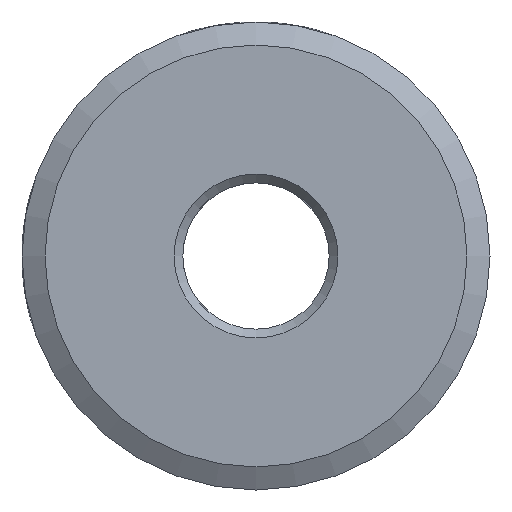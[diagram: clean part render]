
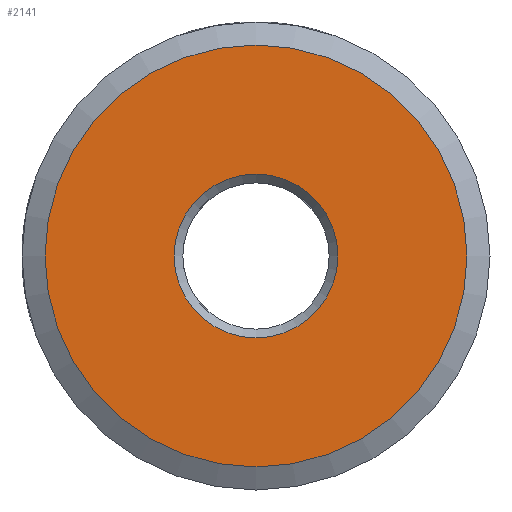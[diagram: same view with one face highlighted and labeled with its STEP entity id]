
A CAD part, left-side view. The second image highlights one B-rep face of the part: STEP entity #2141.
In plain terms, the highlighted planar face has unit normal (-1, 0, 0).
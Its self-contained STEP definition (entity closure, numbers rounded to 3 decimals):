
#21=PLANE('',#2453);
#47=FACE_BOUND('',#515,.T.);
#141=CIRCLE('',#2221,2.8);
#198=CIRCLE('',#2307,7.213);
#388=FACE_OUTER_BOUND('',#514,.T.);
#514=EDGE_LOOP('',(#1834));
#515=EDGE_LOOP('',(#1835));
#874=VERTEX_POINT('',#4154);
#967=VERTEX_POINT('',#4441);
#1095=EDGE_CURVE('',#874,#874,#141,.T.);
#1201=EDGE_CURVE('',#967,#967,#198,.T.);
#1834=ORIENTED_EDGE('',*,*,#1201,.T.);
#1835=ORIENTED_EDGE('',*,*,#1095,.T.);
#2141=ADVANCED_FACE('',(#388,#47),#21,.T.);
#2221=AXIS2_PLACEMENT_3D('',#4156,#2530,#2531);
#2307=AXIS2_PLACEMENT_3D('',#4443,#2747,#2748);
#2453=AXIS2_PLACEMENT_3D('',#5214,#3073,#3074);
#2530=DIRECTION('center_axis',(1.,0.,0.));
#2531=DIRECTION('ref_axis',(0.,0.,1.));
#2747=DIRECTION('center_axis',(-1.,0.,0.));
#2748=DIRECTION('ref_axis',(0.,0.,1.));
#3073=DIRECTION('center_axis',(-1.,0.,0.));
#3074=DIRECTION('ref_axis',(0.,0.,1.));
#4154=CARTESIAN_POINT('',(0.,0.,-2.8));
#4156=CARTESIAN_POINT('Origin',(0.,0.,0.));
#4441=CARTESIAN_POINT('',(0.,0.,7.213));
#4443=CARTESIAN_POINT('Origin',(0.,0.,0.));
#5214=CARTESIAN_POINT('Origin',(0.,0.,0.));
